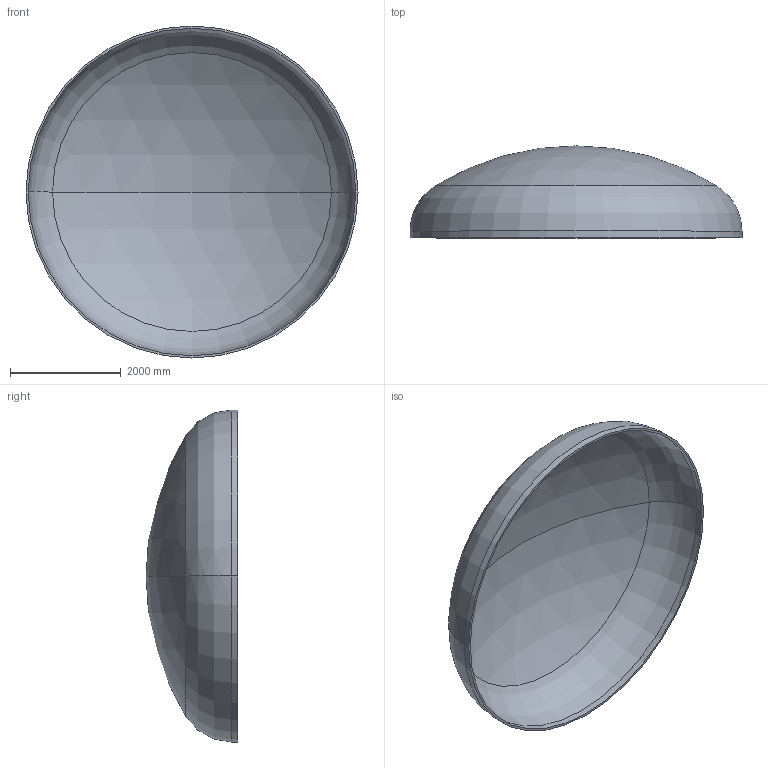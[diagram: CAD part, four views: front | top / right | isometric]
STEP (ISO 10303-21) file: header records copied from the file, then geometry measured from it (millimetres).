
FILE_DESCRIPTION (( 'STEP AP203' ), '1' );
FILE_NAME ('DIN 28013 Korbbogenform_-_Boden DIN 28013 - 6000 x 120 - I - s=40.step', '2016-07-04T10:36:55', ( '' ), ( '' ), 'SwSTEP 2.0', 'SolidWorks 2013', '' );
FILE_SCHEMA (( 'CONFIG_CONTROL_DESIGN' ));
Length unit declared in the file: millimetre
Products named in the file (1): DIN 28013 Korbbogenform_-_Boden DIN 28013 - 6000 x 120 - I - s=40
Bounding box: 6000 x 1662.36 x 6000 mm (x, y, z)
Volume: 1642862786.3 mm3; surface area: 82895414.3 mm2
Topology: 1 solids, 1 shells, 13 faces, 24 edges, 14 vertices
Faces by surface type: torus 4, cylinder 4, sphere 4, plane 1
Entity records: 407 total; most frequent: DIRECTION 72, CARTESIAN_POINT 52, ORIENTED_EDGE 48, AXIS2_PLACEMENT_3D 34, EDGE_CURVE 24, CIRCLE 20, EDGE_LOOP 14, VERTEX_POINT 14
